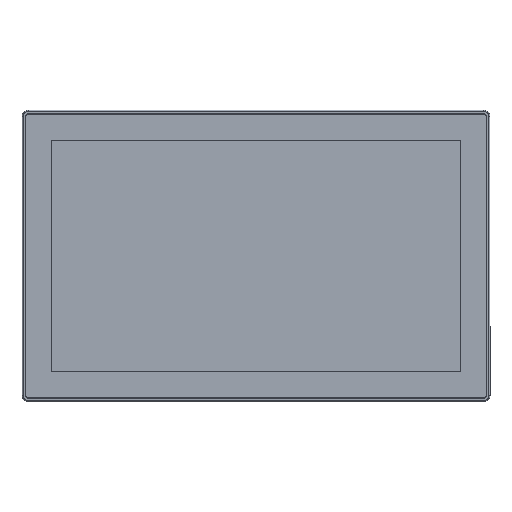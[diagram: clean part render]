
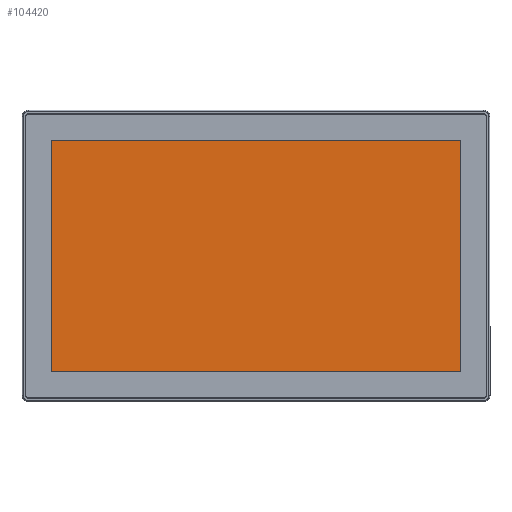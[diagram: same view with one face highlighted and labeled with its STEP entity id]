
A CAD part, top view. The second image highlights one B-rep face of the part: STEP entity #104420.
In plain terms, the highlighted planar face has unit normal (0, 0, 1).
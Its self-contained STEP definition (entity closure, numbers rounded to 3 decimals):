
#4 = LINE ( 'NONE', #62123, #14445 ) ;
#5375 = CARTESIAN_POINT ( 'NONE',  ( 172.6, -97.3, -0.05 ) ) ;
#6033 = CARTESIAN_POINT ( 'NONE',  ( 172.6, -97.3, -0.05 ) ) ;
#12204 = LINE ( 'NONE', #72643, #15651 ) ;
#14016 = ORIENTED_EDGE ( 'NONE', *, *, #33013, .T. ) ;
#14445 = VECTOR ( 'NONE', #97138, 1000. ) ;
#15418 = CARTESIAN_POINT ( 'NONE',  ( 172.6, 97.3, -0.05 ) ) ;
#15651 = VECTOR ( 'NONE', #55460, 1000. ) ;
#20211 = ORIENTED_EDGE ( 'NONE', *, *, #44541, .T. ) ;
#21666 = DIRECTION ( 'NONE',  ( 1., 0., 0. ) ) ;
#25680 = DIRECTION ( 'NONE',  ( 0., 0., 1. ) ) ;
#28284 = AXIS2_PLACEMENT_3D ( 'NONE', #106589, #25680, #54414 ) ;
#29050 = VERTEX_POINT ( 'NONE', #100442 ) ;
#31376 = VERTEX_POINT ( 'NONE', #5375 ) ;
#33013 = EDGE_CURVE ( 'NONE', #31376, #85729, #12204, .T. ) ;
#35259 = EDGE_CURVE ( 'NONE', #68514, #29050, #4, .T. ) ;
#38511 = VECTOR ( 'NONE', #21666, 1000. ) ;
#44541 = EDGE_CURVE ( 'NONE', #29050, #31376, #73980, .T. ) ;
#48613 = ORIENTED_EDGE ( 'NONE', *, *, #35259, .T. ) ;
#49749 = EDGE_CURVE ( 'NONE', #85729, #68514, #61196, .T. ) ;
#52150 = FACE_OUTER_BOUND ( 'NONE', #102457, .T. ) ;
#53097 = VECTOR ( 'NONE', #103635, 1000. ) ;
#54414 = DIRECTION ( 'NONE',  ( -1., 0., 0. ) ) ;
#55460 = DIRECTION ( 'NONE',  ( 0., 1., 0. ) ) ;
#61196 = LINE ( 'NONE', #68659, #53097 ) ;
#62123 = CARTESIAN_POINT ( 'NONE',  ( -172.6, -97.3, -0.05 ) ) ;
#62917 = CARTESIAN_POINT ( 'NONE',  ( -172.6, 97.3, -0.05 ) ) ;
#68514 = VERTEX_POINT ( 'NONE', #62917 ) ;
#68659 = CARTESIAN_POINT ( 'NONE',  ( 172.6, 97.3, -0.05 ) ) ;
#71621 = PLANE ( 'NONE',  #28284 ) ;
#72643 = CARTESIAN_POINT ( 'NONE',  ( 172.6, -97.3, -0.05 ) ) ;
#73980 = LINE ( 'NONE', #6033, #38511 ) ;
#74281 = ORIENTED_EDGE ( 'NONE', *, *, #49749, .T. ) ;
#85729 = VERTEX_POINT ( 'NONE', #15418 ) ;
#97138 = DIRECTION ( 'NONE',  ( 0., -1., 0. ) ) ;
#100442 = CARTESIAN_POINT ( 'NONE',  ( -172.6, -97.3, -0.05 ) ) ;
#102457 = EDGE_LOOP ( 'NONE', ( #14016, #74281, #48613, #20211 ) ) ;
#103635 = DIRECTION ( 'NONE',  ( -1., 0., 0. ) ) ;
#104420 = ADVANCED_FACE ( 'NONE', ( #52150 ), #71621, .T. ) ;
#106589 = CARTESIAN_POINT ( 'NONE',  ( 0., 0., -0.05 ) ) ;
